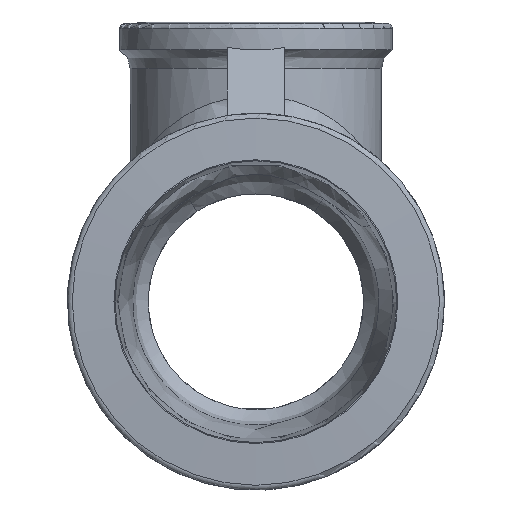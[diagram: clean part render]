
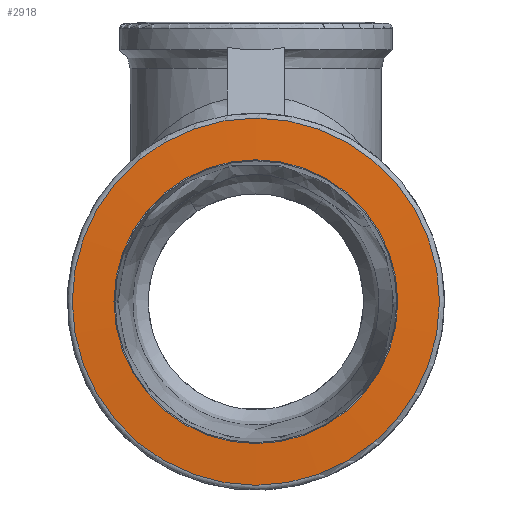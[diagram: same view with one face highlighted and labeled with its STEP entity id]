
A CAD part, front view. The second image highlights one B-rep face of the part: STEP entity #2918.
In plain terms, the highlighted conical face has half-angle 87 degrees and reference radius 31.9 mm.
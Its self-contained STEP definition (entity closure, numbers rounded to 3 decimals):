
#2804=CARTESIAN_POINT('',(35.452,-47.578,0.));
#2805=VERTEX_POINT('',#2804);
#2806=CARTESIAN_POINT('',(0.,-47.578,0.));
#2807=DIRECTION('',(0.0,1.0,0.0));
#2808=DIRECTION('',(-1.0,0.0,0.0));
#2809=AXIS2_PLACEMENT_3D('',#2806,#2807,#2808);
#2810=CIRCLE('',#2809,35.452);
#2811=EDGE_CURVE('',#2805,#2805,#2810,.T.);
#2899=CARTESIAN_POINT('',(0.,-47.764,0.0));
#2900=DIRECTION('',(0.,1.0,0.0));
#2901=DIRECTION('',(-1.0,0.0,0.0));
#2902=AXIS2_PLACEMENT_3D('',#2899,#2900,#2901);
#2903=CONICAL_SURFACE('',#2902,31.9,87.);
#2904=ORIENTED_EDGE('',*,*,#2811,.F.);
#2905=EDGE_LOOP('',(#2904));
#2906=FACE_OUTER_BOUND('',#2905,.T.);
#2907=CARTESIAN_POINT('',(27.4,-48.,0.));
#2908=VERTEX_POINT('',#2907);
#2909=CARTESIAN_POINT('',(0.,-48.,0.0));
#2910=DIRECTION('',(0.0,1.0,0.0));
#2911=DIRECTION('',(-1.0,0.0,0.0));
#2912=AXIS2_PLACEMENT_3D('',#2909,#2910,#2911);
#2913=CIRCLE('',#2912,27.4);
#2914=EDGE_CURVE('',#2908,#2908,#2913,.T.);
#2915=ORIENTED_EDGE('',*,*,#2914,.T.);
#2916=EDGE_LOOP('',(#2915));
#2917=FACE_BOUND('',#2916,.T.);
#2918=ADVANCED_FACE('',(#2906,#2917),#2903,.T.);
